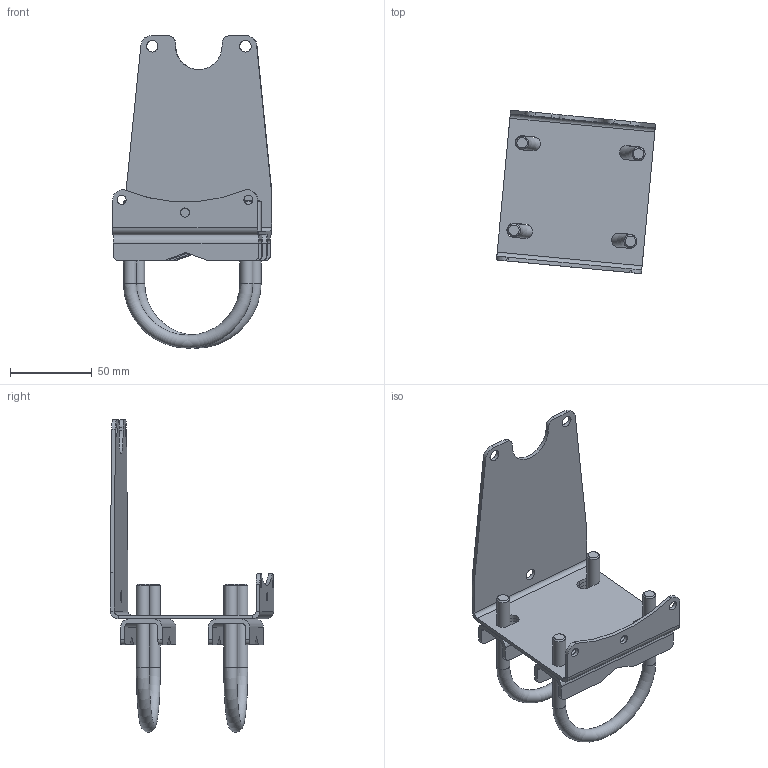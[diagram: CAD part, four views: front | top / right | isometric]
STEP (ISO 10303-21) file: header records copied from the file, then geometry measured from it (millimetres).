
FILE_DESCRIPTION(/* description */ (''),/* implementation_level */ '2;1');
FILE_NAME(/* name */ 'C:\Users\shammack\Equilibar Network Dropbox\Models\Other\Fairchild\Series 41\Model 41 Bracket Assembly\Model 41 Bracket Assembly_Shrinkwrap_1.stp',/* time_stamp */ '2022-09-13T10:22:02-04:00',/* author */ ('shammack'),/* organization */ (''),/* preprocessor_version */ 'ST-DEVELOPER v18.1',/* originating_system */ 'Autodesk Inventor 2021',/* authorisation */ '');
FILE_SCHEMA (('AUTOMOTIVE_DESIGN { 1 0 10303 214 3 1 1 }'));
Length unit declared in the file: inch
Products named in the file (1): Model 41 Bracket Assembly_Shrinkwrap_1
Bounding box: 97.15 x 99.74 x 190.82 mm (x, y, z)
Volume: 82460.5 mm3; surface area: 66959.7 mm2
Topology: 5 solids, 5 shells, 152 faces, 438 edges, 296 vertices
Faces by surface type: plane 76, cylinder 70, cone 4, torus 2
Full cylindrical faces by diameter (mm): 5.556 x3, 5.563 x4, 7.112 x3, 7.937 x4
Entity records: 5352 total; most frequent: DIRECTION 926, CARTESIAN_POINT 887, ORIENTED_EDGE 876, EDGE_CURVE 438, AXIS2_PLACEMENT_3D 335, VERTEX_POINT 296, LINE 256, VECTOR 256
